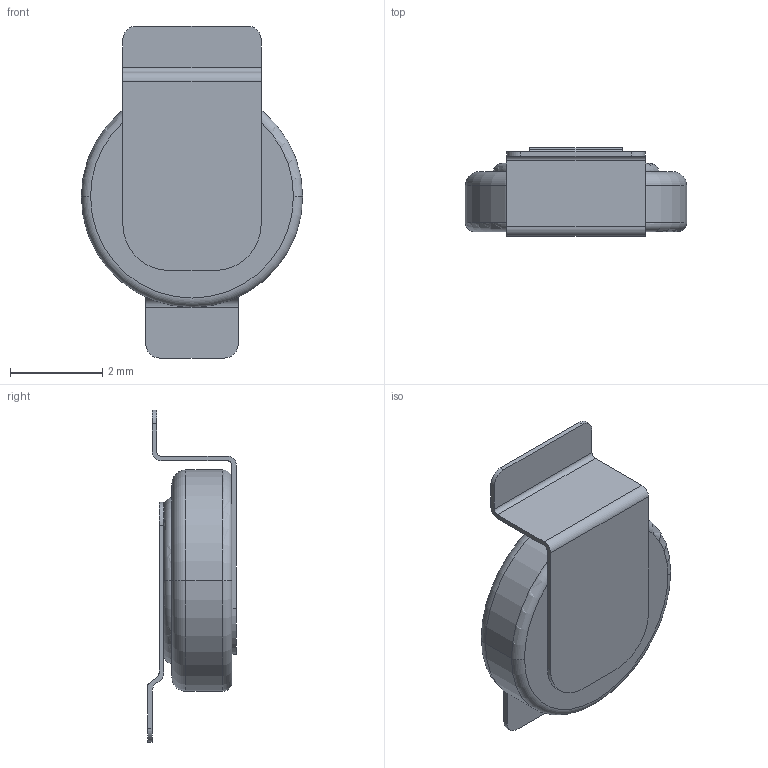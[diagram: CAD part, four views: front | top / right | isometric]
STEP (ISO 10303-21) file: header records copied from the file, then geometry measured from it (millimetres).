
FILE_DESCRIPTION((''),'2;1');
FILE_NAME('RTC-ML414R-F9A_PRT','2008-06-30T',('GRA'),(''),'PRO/ENGINEER BY PARAMETRIC TECHNOLOGY CORPORATION, 2006170','PRO/ENGINEER BY PARAMETRIC TECHNOLOGY CORPORATION, 2006170','');
FILE_SCHEMA(('CONFIG_CONTROL_DESIGN'));
Length unit declared in the file: millimetre
Products named in the file (1): RTC-ML414R-F9A_PRT
Bounding box: 4.8 x 1.93 x 7.2 mm (x, y, z)
Volume: 27.9 mm3; surface area: 85.5 mm2
Topology: 1 solids, 1 shells, 49 faces, 128 edges, 82 vertices
Faces by surface type: plane 25, cylinder 18, torus 6
Entity records: 1558 total; most frequent: DIRECTION 284, CARTESIAN_POINT 259, ORIENTED_EDGE 256, EDGE_CURVE 128, AXIS2_PLACEMENT_3D 107, VERTEX_POINT 82, VECTOR 70, LINE 70
